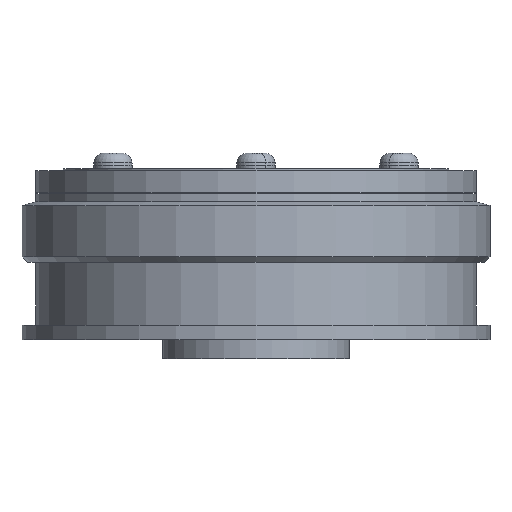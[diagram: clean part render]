
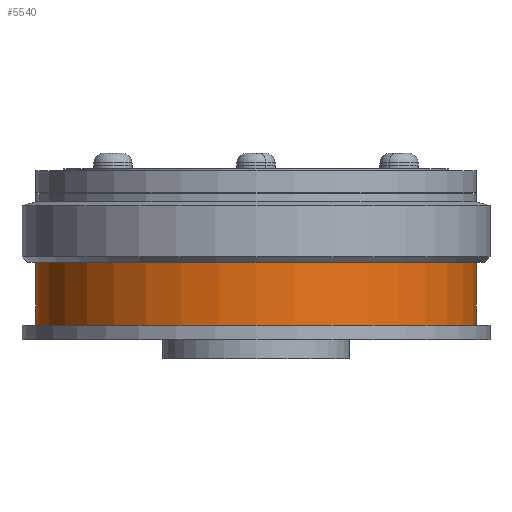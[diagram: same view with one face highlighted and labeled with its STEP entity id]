
A CAD part, front view. The second image highlights one B-rep face of the part: STEP entity #5540.
In plain terms, the highlighted cylindrical face has radius 40 mm (diameter 80 mm), a partial arc.
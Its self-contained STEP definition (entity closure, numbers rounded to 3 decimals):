
#1986 = CIRCLE ( 'NONE', #3228, 40. ) ;
#1988 = CIRCLE ( 'NONE', #3230, 40. ) ;
#2185 = EDGE_LOOP ( 'NONE', ( #4305, #4296, #4270, #4236 ) ) ;
#2416 = AXIS2_PLACEMENT_3D ( 'NONE', #4768, #4769, #4777 ) ;
#3228 = AXIS2_PLACEMENT_3D ( 'NONE', #3745, #3746, #3747 ) ;
#3230 = AXIS2_PLACEMENT_3D ( 'NONE', #3752, #3753, #3754 ) ;
#3539 = FACE_OUTER_BOUND ( 'NONE', #2185, .T. ) ;
#3547 = CYLINDRICAL_SURFACE ( 'NONE', #2416, 40. ) ;
#3745 = CARTESIAN_POINT ( 'NONE',  ( 0., 0., 2.6 ) ) ;
#3746 = DIRECTION ( 'NONE',  ( 0., 0., 1. ) ) ;
#3747 = DIRECTION ( 'NONE',  ( 1., 0., 0. ) ) ;
#3752 = CARTESIAN_POINT ( 'NONE',  ( 0., 0., 14. ) ) ;
#3753 = DIRECTION ( 'NONE',  ( 0., 0., 1. ) ) ;
#3754 = DIRECTION ( 'NONE',  ( -1., 0., 0. ) ) ;
#3942 = CARTESIAN_POINT ( 'NONE',  ( -40., 0., 2.6 ) ) ;
#3943 = DIRECTION ( 'NONE',  ( 0., 0., 1. ) ) ;
#3947 = DIRECTION ( 'NONE',  ( 0., 0., 1. ) ) ;
#3951 = CARTESIAN_POINT ( 'NONE',  ( 40., 0., 2.6 ) ) ;
#4141 = CARTESIAN_POINT ( 'NONE',  ( -40., 0., 14. ) ) ;
#4148 = CARTESIAN_POINT ( 'NONE',  ( 40., 0., 2.6 ) ) ;
#4155 = CARTESIAN_POINT ( 'NONE',  ( 40., 0., 14. ) ) ;
#4158 = CARTESIAN_POINT ( 'NONE',  ( -40., 0., 2.6 ) ) ;
#4236 = ORIENTED_EDGE ( 'NONE', *, *, #5893, .F. ) ;
#4270 = ORIENTED_EDGE ( 'NONE', *, *, #5960, .T. ) ;
#4296 = ORIENTED_EDGE ( 'NONE', *, *, #5891, .T. ) ;
#4305 = ORIENTED_EDGE ( 'NONE', *, *, #5958, .F. ) ;
#4768 = CARTESIAN_POINT ( 'NONE',  ( 0., 0., 2.6 ) ) ;
#4769 = DIRECTION ( 'NONE',  ( 0., 0., 1. ) ) ;
#4777 = DIRECTION ( 'NONE',  ( 1., 0., 0. ) ) ;
#5360 = LINE ( 'NONE', #3942, #5362 ) ;
#5362 = VECTOR ( 'NONE', #3943, 1000. ) ;
#5363 = LINE ( 'NONE', #3951, #5365 ) ;
#5365 = VECTOR ( 'NONE', #3947, 1000. ) ;
#5540 = ADVANCED_FACE ( 'NONE', ( #3539 ), #3547, .T. ) ;
#5891 = EDGE_CURVE ( 'NONE', #6195, #6107, #1986, .T. ) ;
#5893 = EDGE_CURVE ( 'NONE', #6081, #6163, #1988, .T. ) ;
#5958 = EDGE_CURVE ( 'NONE', #6195, #6081, #5360, .T. ) ;
#5960 = EDGE_CURVE ( 'NONE', #6107, #6163, #5363, .T. ) ;
#6081 = VERTEX_POINT ( 'NONE', #4141 ) ;
#6107 = VERTEX_POINT ( 'NONE', #4148 ) ;
#6163 = VERTEX_POINT ( 'NONE', #4155 ) ;
#6195 = VERTEX_POINT ( 'NONE', #4158 ) ;
